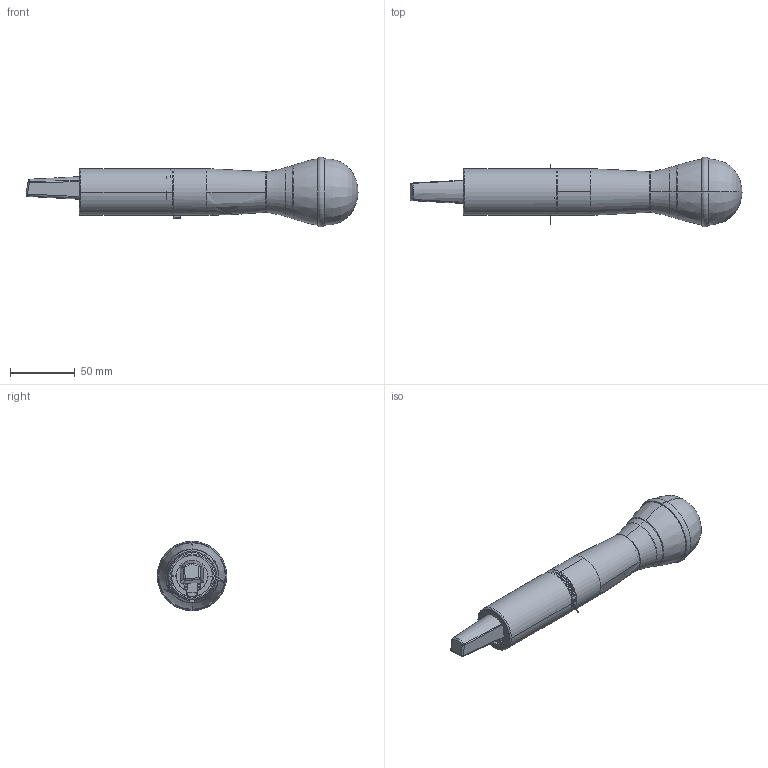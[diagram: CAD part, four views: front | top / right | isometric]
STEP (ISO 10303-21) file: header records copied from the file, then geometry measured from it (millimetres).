
FILE_DESCRIPTION((''),'2;1');
FILE_NAME('HANDHELD_ASM','2024-06-06T03:19:45',('DELL'),(''),'CREO PARAMETRIC BY PTC INC, 2022073','CREO PARAMETRIC BY PTC INC, 2022073','');
FILE_SCHEMA(('CONFIG_CONTROL_DESIGN'));
Products named in the file (11): 00; DS8-H-SHELL-ANTENNA; DS8-H-LENS; MIC_HEAD; HANDHELD_ASM
Assembly tree (10 placements, depth 2):
  HANDHELD_ASM
    00
    00
    00
    00
    00
    00
    DS8-H-SHELL-ANTENNA
    00
    DS8-H-LENS
    MIC_HEAD
Bounding box: 255.42 x 53.47 x 53.47 mm (x, y, z)
Volume: 145053.1 mm3; surface area: 87010.3 mm2
Topology: 9 solids, 12 shells, 947 faces, 2756 edges, 1816 vertices
Faces by surface type: plane 475, cylinder 207, bspline 108, cone 62, torus 46, revolution 27, extrusion 15, sphere 7
Entity records: 45892 total; most frequent: CARTESIAN_POINT 21742, ORIENTED_EDGE 5398, DIRECTION 4441, EDGE_CURVE 2711, VERTEX_POINT 1799, AXIS2_PLACEMENT_3D 1503, VECTOR 1408, LINE 1393
